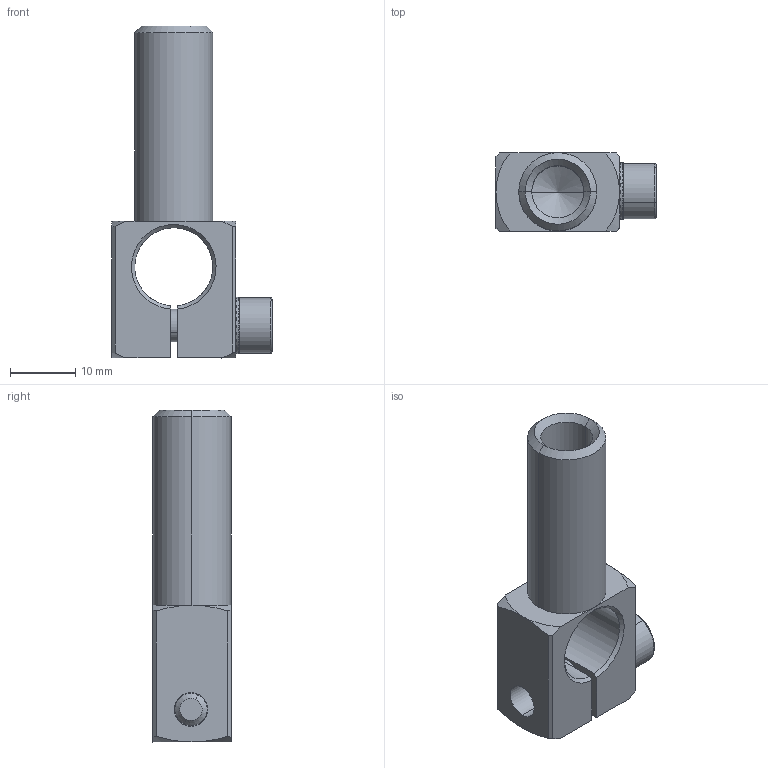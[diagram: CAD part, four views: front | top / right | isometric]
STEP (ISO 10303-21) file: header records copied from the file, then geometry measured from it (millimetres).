
FILE_DESCRIPTION (( 'STEP AP214' ), '1' );
FILE_NAME ('SCA1-1212L30T.STEP', '2023-01-11T06:39:02', ( 'Windows User' ), ( 'P R C' ), 'SwSTEP 2.0', 'SolidWorks 2019', '' );
FILE_SCHEMA (( 'AUTOMOTIVE_DESIGN' ));
Length unit declared in the file: millimetre
Products named in the file (1): SCA1-1212L30T
Bounding box: 24.6 x 12 x 51 mm (x, y, z)
Volume: 5450.1 mm3; surface area: 4712.6 mm2
Topology: 3 solids, 3 shells, 254 faces, 723 edges, 473 vertices
Faces by surface type: plane 216, cone 19, cylinder 17, bspline 2
Entity records: 11297 total; most frequent: CARTESIAN_POINT 1684, ORIENTED_EDGE 1442, DIRECTION 1433, EDGE_CURVE 721, AXIS2_PLACEMENT_3D 491, VERTEX_POINT 473, VECTOR 451, LINE 451
